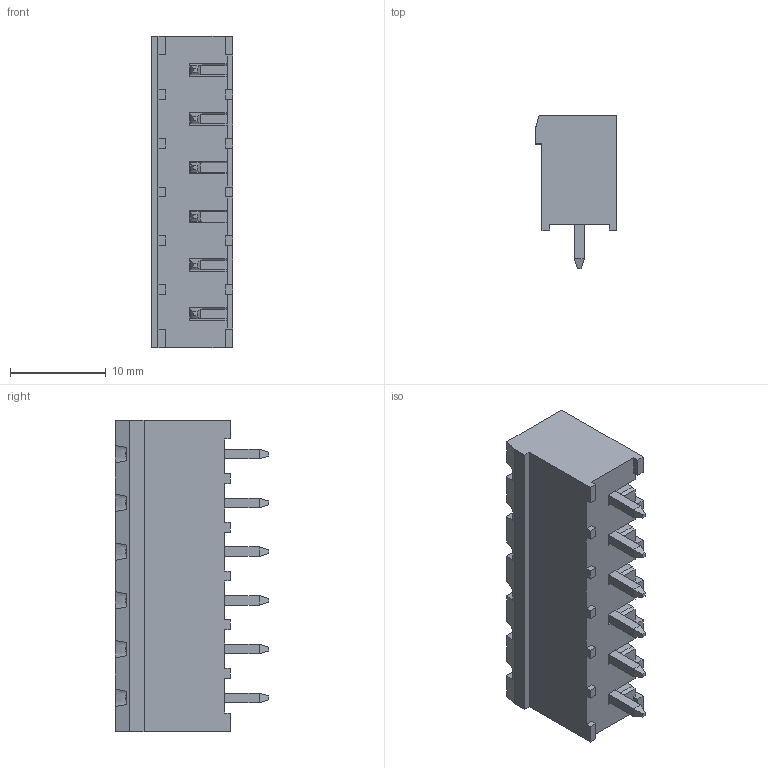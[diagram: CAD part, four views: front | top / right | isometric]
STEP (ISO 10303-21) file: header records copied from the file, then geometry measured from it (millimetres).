
FILE_DESCRIPTION (( 'STEP AP203' ), '1' );
FILE_NAME ('121-ME-221-06.step', '2021-03-25T19:49:47', ( '' ), ( '' ), 'SwSTEP 2.0', 'SolidWorks 2016', '' );
FILE_SCHEMA (( 'CONFIG_CONTROL_DESIGN' ));
Length unit declared in the file: millimetre
Products named in the file (1): 121-ME-221-06
Bounding box: 8.5 x 16 x 32.48 mm (x, y, z)
Volume: 1466.5 mm3; surface area: 2501.3 mm2
Topology: 1 solids, 1 shells, 315 faces, 811 edges, 516 vertices
Faces by surface type: plane 291, cone 18, cylinder 6
Entity records: 9404 total; most frequent: CARTESIAN_POINT 1679, ORIENTED_EDGE 1622, DIRECTION 1473, EDGE_CURVE 811, LINE 757, VECTOR 757, VERTEX_POINT 516, AXIS2_PLACEMENT_3D 358
